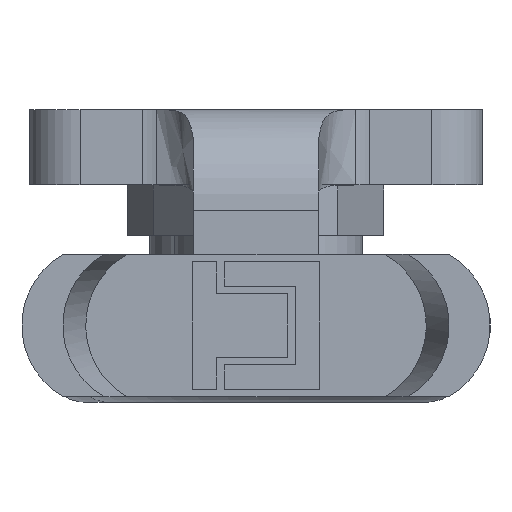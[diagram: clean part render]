
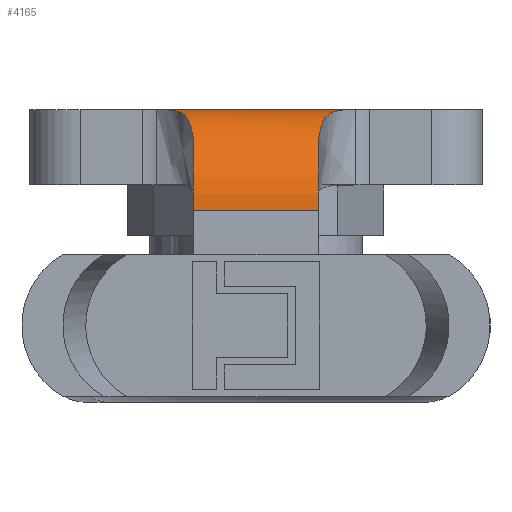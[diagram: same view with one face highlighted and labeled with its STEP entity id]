
A CAD part, left-side view. The second image highlights one B-rep face of the part: STEP entity #4165.
In plain terms, the highlighted cylindrical face has radius 4 mm (diameter 8 mm), a partial arc.
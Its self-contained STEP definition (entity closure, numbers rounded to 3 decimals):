
#85 = CARTESIAN_POINT ( 'NONE',  ( -66., 3.965, 0. ) ) ;
#104 = VECTOR ( 'NONE', #1762, 1000. ) ;
#110 = VERTEX_POINT ( 'NONE', #3723 ) ;
#113 = CARTESIAN_POINT ( 'NONE',  ( -70., -2.5, -4. ) ) ;
#132 = CARTESIAN_POINT ( 'NONE',  ( -68.364, 2.566, -0.72 ) ) ;
#154 = CARTESIAN_POINT ( 'NONE',  ( -67.4, 2.8, -0.248 ) ) ;
#172 = EDGE_LOOP ( 'NONE', ( #3053, #444, #3676, #2708, #4708, #3034 ) ) ;
#245 = LINE ( 'NONE', #3206, #104 ) ;
#292 = DIRECTION ( 'NONE',  ( 0., -1., 0. ) ) ;
#312 = CARTESIAN_POINT ( 'NONE',  ( -66., 3.965, 0. ) ) ;
#321 = EDGE_CURVE ( 'NONE', #110, #412, #245, .T. ) ;
#412 = VERTEX_POINT ( 'NONE', #113 ) ;
#438 = CARTESIAN_POINT ( 'NONE',  ( -66.546, -3.291, -0.037 ) ) ;
#444 = ORIENTED_EDGE ( 'NONE', *, *, #2187, .F. ) ;
#528 = CARTESIAN_POINT ( 'NONE',  ( -66.817, 3.065, -0.084 ) ) ;
#551 = CARTESIAN_POINT ( 'NONE',  ( -68.787, 2.5, -1.131 ) ) ;
#589 = FACE_OUTER_BOUND ( 'NONE', #172, .T. ) ;
#693 = EDGE_CURVE ( 'NONE', #110, #2554, #746, .T. ) ;
#710 = DIRECTION ( 'NONE',  ( 0., 0., 1. ) ) ;
#746 = CIRCLE ( 'NONE', #2461, 4. ) ;
#846 = CARTESIAN_POINT ( 'NONE',  ( -67.24, 2.855, -0.194 ) ) ;
#875 = DIRECTION ( 'NONE',  ( 0., 0., 1. ) ) ;
#884 = CARTESIAN_POINT ( 'NONE',  ( -67.033, 2.945, -0.135 ) ) ;
#938 = CARTESIAN_POINT ( 'NONE',  ( -66.504, 3.296, -0.023 ) ) ;
#1069 = DIRECTION ( 'NONE',  ( 0., 1., 0. ) ) ;
#1156 = CARTESIAN_POINT ( 'NONE',  ( -66.617, -3.23, -0.048 ) ) ;
#1196 = CARTESIAN_POINT ( 'NONE',  ( -67.344, -2.824, -0.214 ) ) ;
#1242 = CARTESIAN_POINT ( 'NONE',  ( -66.468, -3.365, -0.027 ) ) ;
#1260 = CARTESIAN_POINT ( 'NONE',  ( -67.933, 2.648, -0.477 ) ) ;
#1587 = CARTESIAN_POINT ( 'NONE',  ( -66.242, -3.62, -0.006 ) ) ;
#1672 = CARTESIAN_POINT ( 'NONE',  ( -66.78, 3.09, -0.077 ) ) ;
#1762 = DIRECTION ( 'NONE',  ( 0., -1., 0. ) ) ;
#1802 = DIRECTION ( 'NONE',  ( 0., 0., 1. ) ) ;
#1999 = CARTESIAN_POINT ( 'NONE',  ( -68.787, -2.5, -1.131 ) ) ;
#2032 = CARTESIAN_POINT ( 'NONE',  ( -66.786, 3.086, -0.078 ) ) ;
#2048 = VERTEX_POINT ( 'NONE', #4739 ) ;
#2059 = EDGE_CURVE ( 'NONE', #2397, #2048, #3666, .T. ) ;
#2097 = EDGE_CURVE ( 'NONE', #3746, #412, #4036, .T. ) ;
#2182 = CARTESIAN_POINT ( 'NONE',  ( -68.787, 2.5, -1.131 ) ) ;
#2187 = EDGE_CURVE ( 'NONE', #2048, #3746, #4532, .T. ) ;
#2259 = CARTESIAN_POINT ( 'NONE',  ( -66., -2.5, -4. ) ) ;
#2371 = DIRECTION ( 'NONE',  ( 0., 1., 0. ) ) ;
#2397 = VERTEX_POINT ( 'NONE', #312 ) ;
#2461 = AXIS2_PLACEMENT_3D ( 'NONE', #4444, #1069, #1802 ) ;
#2554 = VERTEX_POINT ( 'NONE', #2182 ) ;
#2574 = CARTESIAN_POINT ( 'NONE',  ( -66., 9., 0. ) ) ;
#2682 = CARTESIAN_POINT ( 'NONE',  ( -67.043, -2.947, -0.131 ) ) ;
#2706 = CARTESIAN_POINT ( 'NONE',  ( -66.693, -3.17, -0.06 ) ) ;
#2708 = ORIENTED_EDGE ( 'NONE', *, *, #4114, .F. ) ;
#2919 = CARTESIAN_POINT ( 'NONE',  ( -68.787, -2.5, -1.131 ) ) ;
#3034 = ORIENTED_EDGE ( 'NONE', *, *, #321, .T. ) ;
#3053 = ORIENTED_EDGE ( 'NONE', *, *, #2097, .F. ) ;
#3103 = CARTESIAN_POINT ( 'NONE',  ( -66.536, -3.3, -0.036 ) ) ;
#3206 = CARTESIAN_POINT ( 'NONE',  ( -70., -9., -4. ) ) ;
#3393 = B_SPLINE_CURVE_WITH_KNOTS ( 'NONE', 3,
 ( #551, #132, #1260, #154, #846, #884, #3532, #3869, #4245, #528, #3889, #2032, #1672, #4622, #4268, #938, #3799, #85 ),
 .UNSPECIFIED., .F., .F.,
 ( 4, 2, 2, 2, 2, 2, 2, 2, 4 ),
 ( 0., 0.25, 0.375, 0.438, 0.469, 0.484, 0.492, 0.5, 1. ),
 .UNSPECIFIED. ) ;
#3425 = CARTESIAN_POINT ( 'NONE',  ( -66.123, -3.778, 0. ) ) ;
#3494 = CARTESIAN_POINT ( 'NONE',  ( -68.416, -2.551, -0.77 ) ) ;
#3532 = CARTESIAN_POINT ( 'NONE',  ( -66.97, 2.976, -0.119 ) ) ;
#3564 = CYLINDRICAL_SURFACE ( 'NONE', #4498, 4. ) ;
#3666 = LINE ( 'NONE', #2574, #3878 ) ;
#3676 = ORIENTED_EDGE ( 'NONE', *, *, #2059, .F. ) ;
#3723 = CARTESIAN_POINT ( 'NONE',  ( -70., 2.5, -4. ) ) ;
#3746 = VERTEX_POINT ( 'NONE', #2919 ) ;
#3799 = CARTESIAN_POINT ( 'NONE',  ( -66.25, 3.582, 0. ) ) ;
#3805 = AXIS2_PLACEMENT_3D ( 'NONE', #2259, #4048, #710 ) ;
#3808 = CARTESIAN_POINT ( 'NONE',  ( -66.412, -3.423, -0.021 ) ) ;
#3835 = CARTESIAN_POINT ( 'NONE',  ( -66., -9.343, -4. ) ) ;
#3869 = CARTESIAN_POINT ( 'NONE',  ( -66.883, 3.024, -0.099 ) ) ;
#3878 = VECTOR ( 'NONE', #292, 1000. ) ;
#3889 = CARTESIAN_POINT ( 'NONE',  ( -66.805, 3.073, -0.082 ) ) ;
#4036 = CIRCLE ( 'NONE', #3805, 4. ) ;
#4048 = DIRECTION ( 'NONE',  ( 0., -1., 0. ) ) ;
#4114 = EDGE_CURVE ( 'NONE', #2554, #2397, #3393, .T. ) ;
#4140 = CARTESIAN_POINT ( 'NONE',  ( -66., -3.965, 0. ) ) ;
#4165 = ADVANCED_FACE ( 'NONE', ( #589 ), #3564, .T. ) ;
#4184 = CARTESIAN_POINT ( 'NONE',  ( -68.03, -2.626, -0.533 ) ) ;
#4245 = CARTESIAN_POINT ( 'NONE',  ( -66.856, 3.04, -0.093 ) ) ;
#4268 = CARTESIAN_POINT ( 'NONE',  ( -66.761, 3.104, -0.073 ) ) ;
#4444 = CARTESIAN_POINT ( 'NONE',  ( -66., 2.5, -4. ) ) ;
#4498 = AXIS2_PLACEMENT_3D ( 'NONE', #3835, #2371, #875 ) ;
#4515 = CARTESIAN_POINT ( 'NONE',  ( -66.748, -3.131, -0.07 ) ) ;
#4532 = B_SPLINE_CURVE_WITH_KNOTS ( 'NONE', 3,
 ( #4140, #3425, #1587, #3808, #1242, #3103, #438, #4563, #1156, #2706, #4515, #2682, #1196, #4184, #3494, #1999 ),
 .UNSPECIFIED., .F., .F.,
 ( 4, 2, 2, 2, 2, 2, 2, 4 ),
 ( 0., 0.25, 0.375, 0.406, 0.438, 0.5, 0.75, 1. ),
 .UNSPECIFIED. ) ;
#4563 = CARTESIAN_POINT ( 'NONE',  ( -66.593, -3.25, -0.044 ) ) ;
#4622 = CARTESIAN_POINT ( 'NONE',  ( -66.768, 3.098, -0.074 ) ) ;
#4708 = ORIENTED_EDGE ( 'NONE', *, *, #693, .F. ) ;
#4739 = CARTESIAN_POINT ( 'NONE',  ( -66., -3.965, 0. ) ) ;
